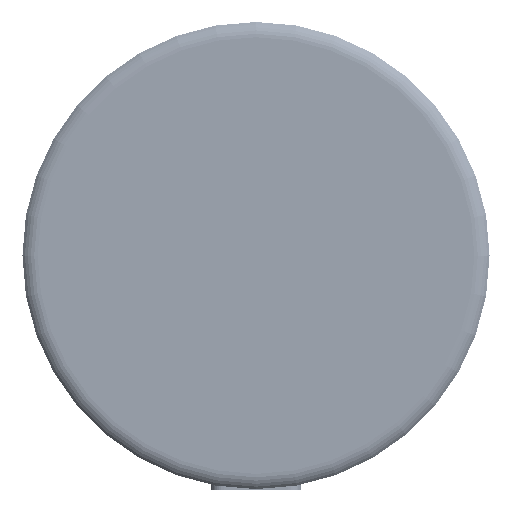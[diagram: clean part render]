
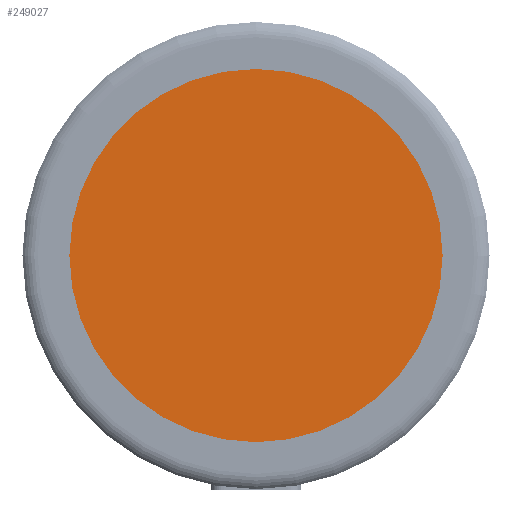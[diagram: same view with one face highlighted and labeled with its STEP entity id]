
A CAD part, top view. The second image highlights one B-rep face of the part: STEP entity #249027.
In plain terms, the highlighted planar face has unit normal (0, 0, 1).
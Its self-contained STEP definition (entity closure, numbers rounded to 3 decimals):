
#248870=CARTESIAN_POINT('',(0.,0.,1.08));
#248871=DIRECTION('',(0.,0.,1.));
#248872=DIRECTION('',(1.,0.,0.));
#248873=AXIS2_PLACEMENT_3D('',#248870,#248871,#248872);
#248878=CARTESIAN_POINT('',(0.,0.,1.08));
#248879=DIRECTION('',(0.,0.,1.));
#248880=DIRECTION('',(-1.,0.,0.));
#248881=AXIS2_PLACEMENT_3D('',#248878,#248879,#248880);
#248898=CARTESIAN_POINT('',(18.375,0.,1.08));
#248899=CARTESIAN_POINT('',(-18.375,0.,1.08));
#248900=VERTEX_POINT('',#248898);
#248901=VERTEX_POINT('',#248899);
#249018=CARTESIAN_POINT('',(0.,0.,1.08));
#249019=DIRECTION('',(0.,0.,1.));
#249020=DIRECTION('',(1.,0.,0.));
#249021=AXIS2_PLACEMENT_3D('',#249018,#249019,#249020);
#249022=PLANE('',#249021);
#249023=ORIENTED_EDGE('',*,*,#248998,.F.);
#249024=ORIENTED_EDGE('',*,*,#249012,.F.);
#249025=EDGE_LOOP('',(#249023,#249024));
#249026=FACE_OUTER_BOUND('',#249025,.F.);
#249027=ADVANCED_FACE('',(#249026),#249022,.T.);
#248874=CIRCLE('',#248873,18.375);
#248882=CIRCLE('',#248881,18.375);
#248998=EDGE_CURVE('',#248900,#248901,#248874,.T.);
#249012=EDGE_CURVE('',#248901,#248900,#248882,.T.);
